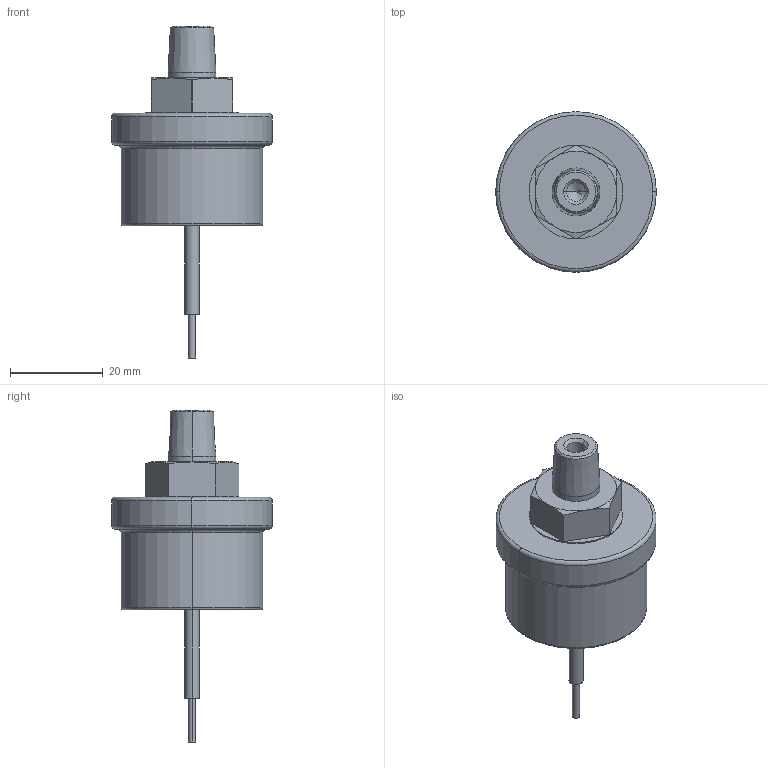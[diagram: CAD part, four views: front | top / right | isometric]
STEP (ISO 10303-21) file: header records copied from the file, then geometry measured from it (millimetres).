
FILE_DESCRIPTION (( 'STEP AP214' ), '1' );
FILE_NAME ('P20M-TYPE.STEP', '2008-01-31T15:34:20', ( 'Authorized User' ), ( 'Precision Sensors' ), 'SwSTEP 2.0', 'SolidWorks 2006303', '' );
FILE_SCHEMA (( 'AUTOMOTIVE_DESIGN' ));
Length unit declared in the file: inch
Products named in the file (1): P20M-TYPE
Bounding box: 34.54 x 34.54 x 71.42 mm (x, y, z)
Volume: 21916.3 mm3; surface area: 5315.8 mm2
Topology: 1 solids, 1 shells, 55 faces, 122 edges, 73 vertices
Faces by surface type: plane 19, cone 14, cylinder 14, torus 8
Entity records: 1599 total; most frequent: CARTESIAN_POINT 305, DIRECTION 288, ORIENTED_EDGE 240, AXIS2_PLACEMENT_3D 124, EDGE_CURVE 120, VERTEX_POINT 73, CIRCLE 68, EDGE_LOOP 61
